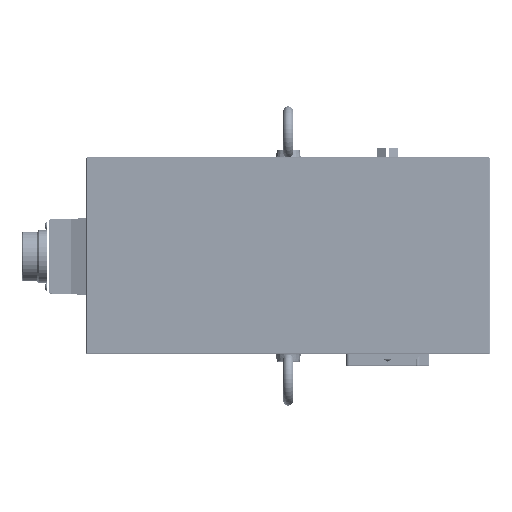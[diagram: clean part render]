
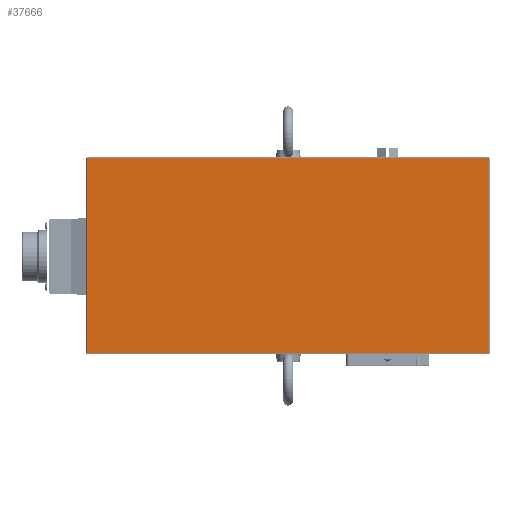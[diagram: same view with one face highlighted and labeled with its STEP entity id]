
A CAD part, top view. The second image highlights one B-rep face of the part: STEP entity #37666.
In plain terms, the highlighted planar face has unit normal (0, 0, 1).
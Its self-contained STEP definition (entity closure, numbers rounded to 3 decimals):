
#37627=CARTESIAN_POINT('',(-60.,62.5,418.));
#37628=DIRECTION('',(0.,1.,0.));
#37629=DIRECTION('',(0.,0.,-1.));
#37630=AXIS2_PLACEMENT_3D('',#37627,#37629,#37628);
#37631=PLANE('',#37630);
#37632=CARTESIAN_POINT('',(-181.5,-59.,418.));
#37633=VERTEX_POINT('',#37632);
#37634=CARTESIAN_POINT('',(-181.5,59.,418.));
#37635=VERTEX_POINT('',#37634);
#37636=CARTESIAN_POINT('',(-181.5,-59.,418.));
#37637=DIRECTION('',(0.,1.,0.));
#37638=VECTOR('',#37637,118.);
#37639=LINE('',#37636,#37638);
#37640=EDGE_CURVE('',#37633,#37635,#37639,.T.);
#37641=ORIENTED_EDGE('E69',*,*,#37640,.T.);
#37642=CARTESIAN_POINT('',(61.5,59.,418.));
#37643=VERTEX_POINT('',#37642);
#37644=CARTESIAN_POINT('',(-181.5,59.,418.));
#37645=DIRECTION('',(1.,0.,0.));
#37646=VECTOR('',#37645,243.);
#37647=LINE('',#37644,#37646);
#37648=EDGE_CURVE('',#37635,#37643,#37647,.T.);
#37649=ORIENTED_EDGE('E74',*,*,#37648,.T.);
#37650=CARTESIAN_POINT('',(61.5,-59.,418.));
#37651=VERTEX_POINT('',#37650);
#37652=CARTESIAN_POINT('',(61.5,59.,418.));
#37653=DIRECTION('',(0.,-1.,0.));
#37654=VECTOR('',#37653,118.);
#37655=LINE('',#37652,#37654);
#37656=EDGE_CURVE('',#37643,#37651,#37655,.T.);
#37657=ORIENTED_EDGE('E76',*,*,#37656,.T.);
#37658=CARTESIAN_POINT('',(61.5,-59.,418.));
#37659=DIRECTION('',(-1.,0.,0.));
#37660=VECTOR('',#37659,243.);
#37661=LINE('',#37658,#37660);
#37662=EDGE_CURVE('',#37651,#37633,#37661,.T.);
#37663=ORIENTED_EDGE('E72',*,*,#37662,.T.);
#37664=EDGE_LOOP('',(#37641,#37649,#37657,#37663));
#37665=FACE_OUTER_BOUND('',#37664,.F.);
#37666=ADVANCED_FACE('F8',(#37665),#37631,.F.);
